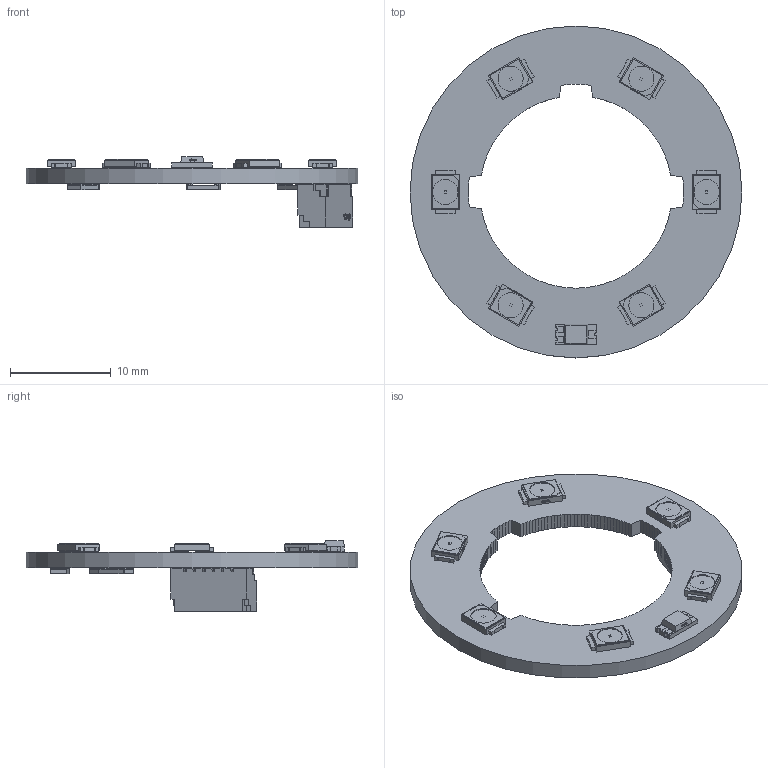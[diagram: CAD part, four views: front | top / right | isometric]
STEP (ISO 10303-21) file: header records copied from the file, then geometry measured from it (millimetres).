
FILE_DESCRIPTION(('KiCad electronic assembly'),'2;1');
FILE_NAME('layercam-ring.step','2026-10-26T20:45:51',('Pcbnew'),('Kicad' ),'Open CASCADE STEP processor 7.8','KiCad to STEP converter', 'Unknown');
FILE_SCHEMA(('AUTOMOTIVE_DESIGN { 1 0 10303 214 1 1 1 1 }'));
Length unit declared in the file: millimetre
Products named in the file (10): layercam-ring 1; LED-SMD_L3.5-W2.8-R-RD_RED-1; SENSORS-SMD_TEMT6000X01; R_1206_3216Metric; CONN-SMD_SR1.00-LS-6P; layercam-ring_PCB
Assembly tree (16 placements, depth 3):
  layercam-ring 1
    LED-SMD_L3.5-W2.8-R-RD_RED-1  x6
      LED-SMD_L3.5-W2.8-R-RD_RED-1
    SENSORS-SMD_TEMT6000X01
      SENSORS-SMD_TEMT6000X01
    R_1206_3216Metric  x3
      R_1206_3216Metric
    CONN-SMD_SR1.00-LS-6P
      CONN-SMD_SR1.00-LS-6P
    layercam-ring_PCB
Bounding box: 33 x 33 x 7 mm (x, y, z)
Volume: 962.3 mm3; surface area: 1897.3 mm2
Topology: 37 solids, 37 shells, 3010 faces, 8159 edges, 5430 vertices
Faces by surface type: plane 2050, bspline 896, cylinder 64
Full cylindrical faces by diameter (mm): 33 x1
Entity records: 53232 total; most frequent: CARTESIAN_POINT 13379, ORIENTED_EDGE 7316, DIRECTION 5065, EDGE_CURVE 3658, LINE 2855, VECTOR 2855, VERTEX_POINT 2432, FACE_BOUND 1428
